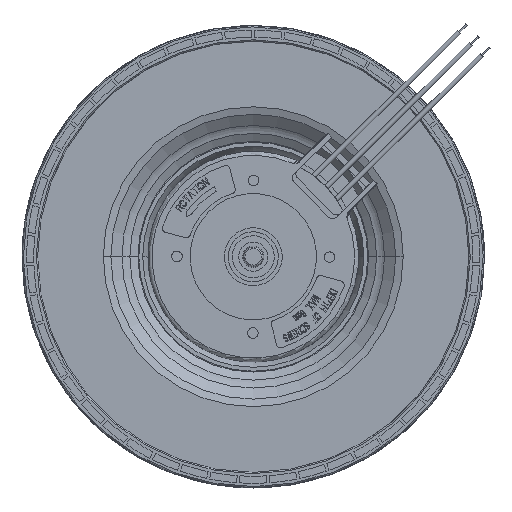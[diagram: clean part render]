
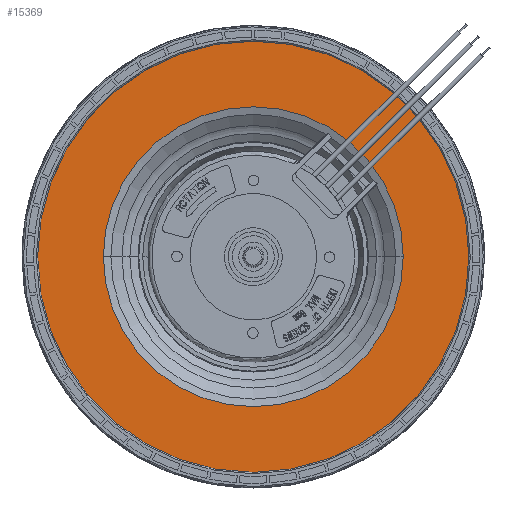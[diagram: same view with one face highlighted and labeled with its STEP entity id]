
A CAD part, front view. The second image highlights one B-rep face of the part: STEP entity #15369.
In plain terms, the highlighted planar face has unit normal (0, -1, 0).
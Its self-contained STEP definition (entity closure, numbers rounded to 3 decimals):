
#2853=CARTESIAN_POINT('',(0.,-44.047,0.));
#2854=DIRECTION('',(0.,1.,0.));
#2855=DIRECTION('',(-1.,0.,0.));
#2856=AXIS2_PLACEMENT_3D('',#2853,#2854,#2855);
#2858=CARTESIAN_POINT('',(0.,-44.047,0.));
#2859=DIRECTION('',(0.,1.,0.));
#2860=DIRECTION('',(0.,0.,1.));
#2861=AXIS2_PLACEMENT_3D('',#2858,#2859,#2860);
#2863=CARTESIAN_POINT('',(0.,-44.047,0.));
#2864=DIRECTION('',(0.,1.,0.));
#2865=DIRECTION('',(1.,0.,0.));
#2866=AXIS2_PLACEMENT_3D('',#2863,#2864,#2865);
#2868=CARTESIAN_POINT('',(0.,-44.047,0.));
#2869=DIRECTION('',(0.,1.,0.));
#2870=DIRECTION('',(0.,0.,-1.));
#2871=AXIS2_PLACEMENT_3D('',#2868,#2869,#2870);
#2873=CARTESIAN_POINT('',(0.,-44.047,0.));
#2874=DIRECTION('',(0.,-1.,0.));
#2875=DIRECTION('',(1.,0.,0.));
#2876=AXIS2_PLACEMENT_3D('',#2873,#2874,#2875);
#2878=CARTESIAN_POINT('',(0.,-44.047,0.));
#2879=DIRECTION('',(0.,-1.,0.));
#2880=DIRECTION('',(-1.,0.,0.));
#2881=AXIS2_PLACEMENT_3D('',#2878,#2879,#2880);
#12127=CARTESIAN_POINT('',(56.959,-44.047,0.));
#12128=VERTEX_POINT('',#12127);
#12129=CARTESIAN_POINT('',(-56.959,-44.047,0.));
#12130=VERTEX_POINT('',#12129);
#12131=CARTESIAN_POINT('',(-81.905,-44.047,0.));
#12132=CARTESIAN_POINT('',(0.,-44.047,81.905));
#12133=VERTEX_POINT('',#12131);
#12134=VERTEX_POINT('',#12132);
#12135=CARTESIAN_POINT('',(81.905,-44.047,0.));
#12136=VERTEX_POINT('',#12135);
#12137=CARTESIAN_POINT('',(0.,-44.047,-81.905));
#12138=VERTEX_POINT('',#12137);
#15350=CARTESIAN_POINT('',(0.,-44.047,0.));
#15351=DIRECTION('',(0.,1.,0.));
#15352=DIRECTION('',(0.,0.,1.));
#15353=AXIS2_PLACEMENT_3D('',#15350,#15351,#15352);
#15354=PLANE('',#15353);
#15356=ORIENTED_EDGE('',*,*,#15355,.T.);
#15358=ORIENTED_EDGE('',*,*,#15357,.T.);
#15360=ORIENTED_EDGE('',*,*,#15359,.T.);
#15362=ORIENTED_EDGE('',*,*,#15361,.T.);
#15363=EDGE_LOOP('',(#15356,#15358,#15360,#15362));
#15364=FACE_OUTER_BOUND('',#15363,.F.);
#15365=ORIENTED_EDGE('',*,*,#15345,.T.);
#15366=ORIENTED_EDGE('',*,*,#15329,.T.);
#15367=EDGE_LOOP('',(#15365,#15366));
#15368=FACE_BOUND('',#15367,.F.);
#15369=ADVANCED_FACE('',(#15364,#15368),#15354,.F.);
#2857=CIRCLE('',#2856,81.905);
#2862=CIRCLE('',#2861,81.905);
#2867=CIRCLE('',#2866,81.905);
#2872=CIRCLE('',#2871,81.905);
#2877=CIRCLE('',#2876,56.959);
#2882=CIRCLE('',#2881,56.959);
#15329=EDGE_CURVE('',#12130,#12128,#2882,.T.);
#15345=EDGE_CURVE('',#12128,#12130,#2877,.T.);
#15355=EDGE_CURVE('',#12133,#12134,#2857,.T.);
#15357=EDGE_CURVE('',#12134,#12136,#2862,.T.);
#15359=EDGE_CURVE('',#12136,#12138,#2867,.T.);
#15361=EDGE_CURVE('',#12138,#12133,#2872,.T.);
